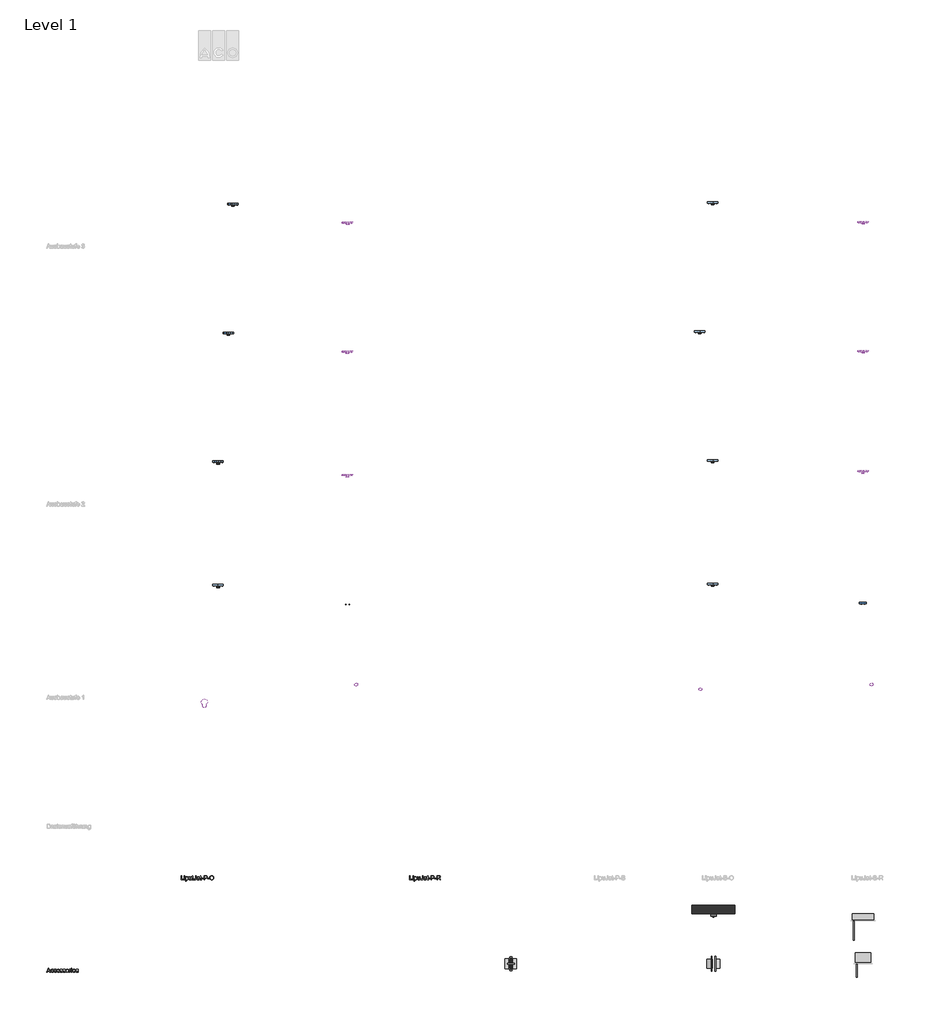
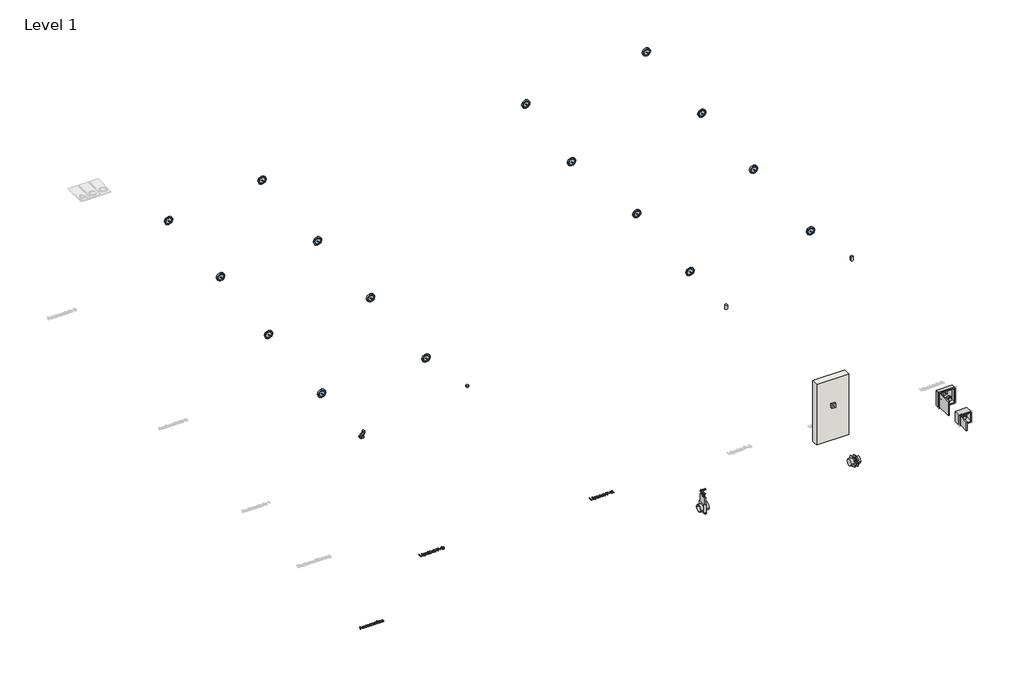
# One storey, part 1 of 3: 16 windows, 5 proxies, 4 unitary equipment elements, 2 furniture elements, 2 pipe fittings, 1 valve, 1 wall.
"""IFC4 building model written with IfcOpenShell, lengths in millimetres."""

from ifc_helpers import new_model, si_unit, origin, origin_with_axes, place, context, project, spatial, polyline, outline, extrude, transform, mapped, element, save
from components import cd_pvc_remote_control_aco_std_7b1f1c58, furniture_370x330x250_330b71c9, furniture_500x500x160_cb3627f5, std_2dac5c2e, ns2_aebbb962, ns2_601247f1, ns4_c199ca5a, ns4_fcfb2e82, dn200_f11250b8, std_43f00bc0

model = new_model("IFC4")

# Units and contexts
model_context = context("Model", 3, world=origin())
ifc_project = project(units=[si_unit("LENGTHUNIT", "METRE", prefix="MILLI")], contexts=[model_context])

# Site, building, storey
site = spatial("IfcSite", under=ifc_project)
building = spatial("IfcBuilding", under=site)
storey = spatial("IfcBuildingStorey", under=building, Name="Level 1", Elevation=0.0)

# Proxies
placement = place(None, origin())
element("IfcBuildingElementProxy", 1, Name="100mm ACO", ObjectType="100mm ACO", at=placement, inside=storey, context=model_context, shape_type="SweptSolid", body=[
    extrude(outline(polyline([(183.3333333, -350.0), (120.3703704, -350.0), (120.3703704, -250.0), (133.3333333, -250.0), (133.3333333, -338.8888889), (183.3333333, -338.8888889), (183.3333333, -350.0)])), origin_with_axes(), (0.0, 0.0, 1.0), 10.0),
    extrude(outline(polyline([(209.2592593, -262.962963), (196.2962963, -262.962963), (196.2962963, -250.0), (209.2592593, -250.0), (209.2592593, -262.962963)])), origin_with_axes(), (0.0, 0.0, 1.0), 10.0),
    extrude(outline(polyline([(209.2592593, -350.0), (196.2962963, -350.0), (196.2962963, -277.7777778), (209.2592593, -277.7777778), (209.2592593, -350.0)])), origin_with_axes(), (0.0, 0.0, 1.0), 10.0),
    extrude(outline(polyline([(240.8709491, -286.4872685), (249.3272569, -278.5662616), (260.9953704, -275.9259259), (273.3217593, -278.515625), (282.7546296, -286.2847222), (288.744213, -298.2132523), (290.7407407, -313.28125), (288.4837963, -329.1702836), (281.712963, -341.4207176), (271.6579861, -349.2440683), (259.5486111, -351.8518519), (249.1753472, -349.7251157), (241.087963, -343.3449074), (240.7407407, -377.7777778), (227.7777778, -377.7777778), (227.7777778, -277.7777778), (240.7407407, -277.7777778), (240.8709491, -286.4872685)]), holes=[polyline([(258.130787, -342.5925926), (265.9035012, -340.766059), (272.2077546, -335.2864583), (276.385272, -326.1899595), (277.7777778, -313.5127315), (276.4359086, -301.4359086), (272.4103009, -292.5202546), (266.2941262, -287.0189525), (258.6805556, -285.1851852), (250.7993345, -287.2287326), (244.458912, -293.359375), (240.2813947, -302.7452257), (238.8888889, -314.5543981), (240.2235243, -326.66739), (244.2274306, -335.4600694), (250.3725405, -340.8094618), (258.130787, -342.5925926)])]), origin_with_axes(), (0.0, 0.0, 1.0), 10.0),
    extrude(outline(polyline([(364.8148148, -350.0), (353.7037037, -350.0), (353.7037037, -339.4965278), (343.4606481, -348.7630208), (330.4976852, -351.8518519), (316.3773148, -348.3362269), (307.7256944, -338.6574074), (305.5555556, -322.65625), (305.5555556, -277.7777778), (318.5185185, -277.7777778), (318.5185185, -318.75), (319.4155093, -332.8414352), (324.1030093, -339.84375), (333.130787, -342.5925926), (345.8767361, -337.6736111), (350.3580729, -330.1215278), (351.8518519, -317.3032407), (351.8518519, -277.7777778), (364.8148148, -277.7777778), (364.8148148, -350.0)])), origin_with_axes(), (0.0, 0.0, 1.0), 10.0),
    extrude(outline(polyline([(411.1111111, -351.0127315), (402.025463, -351.8518519), (390.4369213, -348.9728009), (385.9953704, -341.6666667), (385.1851852, -329.3402778), (385.1851852, -287.037037), (375.9259259, -287.037037), (375.9259259, -277.7777778), (385.1851852, -277.7777778), (385.1851852, -259.4328704), (398.1481481, -251.8518519), (398.1481481, -277.7777778), (409.2592593, -277.7777778), (409.2592593, -287.037037), (398.1481481, -287.037037), (398.1481481, -331.9444444), (399.1898148, -340.162037), (404.4849537, -342.5925926), (409.5196759, -342.5925926), (411.1111111, -351.0127315)])), origin_with_axes(), (0.0, 0.0, 1.0), 10.0),
    extrude(outline(polyline([(472.2222222, -318.1134259), (470.348669, -333.8143808), (464.7280093, -344.1695602), (455.7653356, -349.9312789), (443.8657407, -351.8518519), (431.9661458, -349.9891493), (423.4664352, -344.4010417), (418.3666088, -335.0730613), (416.6666667, -321.9907407), (429.6296296, -320.3703704), (433.4924769, -335.6481481), (444.5601852, -340.7407407), (454.4994213, -337.5), (458.5069444, -330.0202546), (459.2592593, -319.4444444), (459.2592593, -250.0), (472.2222222, -250.0), (472.2222222, -318.1134259)])), origin_with_axes(), (0.0, 0.0, 1.0), 10.0),
    extrude(outline(polyline([(553.7037037, -316.6666667), (500.0, -316.6666667), (502.0724826, -327.7922454), (506.7853009, -335.9375), (513.566985, -340.9288194), (521.8460648, -342.5925926), (533.521412, -338.9033565), (540.7407407, -327.7777778), (553.7037037, -329.2824074), (549.3272569, -338.9033565), (542.3900463, -346.0069444), (533.1452546, -350.390625), (521.8460648, -351.8518519), (507.2591146, -349.3453414), (496.2528935, -341.8258102), (489.3410012, -329.9660012), (487.037037, -314.4386574), (489.2578125, -298.900463), (495.9201389, -286.6030093), (506.6189236, -278.5951968), (520.9490741, -275.9259259), (536.1689815, -279.3836806), (548.5966435, -291.1603009), (552.4269387, -301.6963252), (553.7037037, -316.6666667)]), holes=[polyline([(540.7407407, -307.4074074), (538.6574074, -297.2511574), (533.912037, -290.3935185), (520.630787, -285.1851852), (512.7748843, -286.7332176), (506.4525463, -291.3773148), (500.0, -307.4074074), (540.7407407, -307.4074074)])]), origin_with_axes(), (0.0, 0.0, 1.0), 10.0),
    extrude(outline(polyline([(596.2962963, -351.0127315), (587.2106481, -351.8518519), (575.6221065, -348.9728009), (571.1805556, -341.6666667), (570.3703704, -329.3402778), (570.3703704, -287.037037), (561.1111111, -287.037037), (561.1111111, -277.7777778), (570.3703704, -277.7777778), (570.3703704, -259.4328704), (583.3333333, -251.8518519), (583.3333333, -277.7777778), (594.4444444, -277.7777778), (594.4444444, -287.037037), (583.3333333, -287.037037), (583.3333333, -331.9444444), (584.375, -340.162037), (589.6701389, -342.5925926), (594.7048611, -342.5925926), (596.2962963, -351.0127315)])), origin_with_axes(), (0.0, 0.0, 1.0), 10.0),
    extrude(outline(polyline([(640.7407407, -316.6666667), (601.8518519, -316.6666667), (601.8518519, -307.4074074), (640.7407407, -307.4074074), (640.7407407, -316.6666667)])), origin_with_axes(), (0.0, 0.0, 1.0), 10.0),
    extrude(outline(polyline([(655.5555556, -250.0), (693.1134259, -250.0), (708.4201389, -250.8825231), (720.3414352, -255.46875), (728.6603009, -265.5237269), (731.4814815, -278.8194444), (729.2570891, -291.2507234), (722.583912, -300.9403935), (711.0062211, -307.1795428), (694.068287, -309.2592593), (668.5185185, -309.2592593), (668.5185185, -350.0), (655.5555556, -350.0), (655.5555556, -250.0)]), holes=[polyline([(668.5185185, -298.1481481), (694.5891204, -298.1481481), (712.536169, -293.4100116), (717.0229311, -287.4873409), (718.5185185, -279.1956019), (715.4079861, -268.2146991), (707.7690972, -262.2829861), (694.2997685, -261.1111111), (668.5185185, -261.1111111), (668.5185185, -298.1481481)])]), origin_with_axes(), (0.0, 0.0, 1.0), 10.0),
    extrude(outline(polyline([(779.6296296, -316.6666667), (740.7407407, -316.6666667), (740.7407407, -307.4074074), (779.6296296, -307.4074074), (779.6296296, -316.6666667)])), origin_with_axes(), (0.0, 0.0, 1.0), 10.0),
    extrude(outline(polyline([(837.1238426, -248.1481481), (855.6134259, -251.7216435), (870.3993056, -262.4421296), (880.0998264, -279.0147569), (883.3333333, -300.1446759), (880.0817419, -321.1841725), (870.3269676, -337.6591435), (855.5230035, -348.3036748), (837.1238426, -351.8518519), (818.2508681, -348.1734664), (803.4722222, -337.1383102), (793.9236111, -320.808015), (790.7407407, -301.244213), (793.9670139, -279.1630498), (803.6458333, -262.3408565), (818.4678819, -251.6963252), (837.1238426, -248.1481481)]), holes=[polyline([(837.0081019, -340.7407407), (850.4484954, -338.0570023), (861.0821759, -330.005787), (868.0193866, -317.1730324), (870.3703704, -300.1446759), (868.0157697, -282.7365451), (860.9519676, -269.8640046), (850.3219039, -261.9104456), (837.2685185, -259.2592593), (823.9221644, -261.8561921), (813.1655093, -269.6469907), (806.0691551, -282.8052662), (803.7037037, -301.5046296), (806.0185185, -317.3864294), (812.962963, -329.9045139), (823.6038773, -338.031684), (837.0081019, -340.7407407)])]), origin_with_axes(), (0.0, 0.0, 1.0), 10.0),
])
element("IfcBuildingElementProxy", 2, Name="100mm ACO", ObjectType="100mm ACO", at=placement, inside=storey, context=model_context, shape_type="SweptSolid", body=[
    extrude(outline(polyline([(5506.4814815, -350.0), (5443.5185185, -350.0), (5443.5185185, -250.0), (5456.4814815, -250.0), (5456.4814815, -338.8888889), (5506.4814815, -338.8888889), (5506.4814815, -350.0)])), origin_with_axes(), (0.0, 0.0, 1.0), 10.0),
    extrude(outline(polyline([(5532.4074074, -262.962963), (5519.4444444, -262.962963), (5519.4444444, -250.0), (5532.4074074, -250.0), (5532.4074074, -262.962963)])), origin_with_axes(), (0.0, 0.0, 1.0), 10.0),
    extrude(outline(polyline([(5532.4074074, -350.0), (5519.4444444, -350.0), (5519.4444444, -277.7777778), (5532.4074074, -277.7777778), (5532.4074074, -350.0)])), origin_with_axes(), (0.0, 0.0, 1.0), 10.0),
    extrude(outline(polyline([(5564.0190972, -286.4872685), (5572.4754051, -278.5662616), (5584.1435185, -275.9259259), (5596.4699074, -278.515625), (5605.9027778, -286.2847222), (5611.8923611, -298.2132523), (5613.8888889, -313.28125), (5611.6319444, -329.1702836), (5604.8611111, -341.4207176), (5594.8061343, -349.2440683), (5582.6967593, -351.8518519), (5572.3234954, -349.7251157), (5564.2361111, -343.3449074), (5563.8888889, -377.7777778), (5550.9259259, -377.7777778), (5550.9259259, -277.7777778), (5563.8888889, -277.7777778), (5564.0190972, -286.4872685)]), holes=[polyline([(5581.2789352, -342.5925926), (5589.0516493, -340.766059), (5595.3559028, -335.2864583), (5599.5334201, -326.1899595), (5600.9259259, -313.5127315), (5599.5840567, -301.4359086), (5595.5584491, -292.5202546), (5589.4422743, -287.0189525), (5581.8287037, -285.1851852), (5573.9474826, -287.2287326), (5567.6070602, -293.359375), (5563.4295428, -302.7452257), (5562.037037, -314.5543981), (5563.3716725, -326.66739), (5567.3755787, -335.4600694), (5573.5206887, -340.8094618), (5581.2789352, -342.5925926)])]), origin_with_axes(), (0.0, 0.0, 1.0), 10.0),
    extrude(outline(polyline([(5687.962963, -350.0), (5676.8518519, -350.0), (5676.8518519, -339.4965278), (5666.6087963, -348.7630208), (5653.6458333, -351.8518519), (5639.525463, -348.3362269), (5630.8738426, -338.6574074), (5628.7037037, -322.65625), (5628.7037037, -277.7777778), (5641.6666667, -277.7777778), (5641.6666667, -318.75), (5642.5636574, -332.8414352), (5647.2511574, -339.84375), (5656.2789352, -342.5925926), (5669.0248843, -337.6736111), (5673.5062211, -330.1215278), (5675.0, -317.3032407), (5675.0, -277.7777778), (5687.962963, -277.7777778), (5687.962963, -350.0)])), origin_with_axes(), (0.0, 0.0, 1.0), 10.0),
    extrude(outline(polyline([(5756.4814815, -318.1134259), (5754.6079282, -333.8143808), (5748.9872685, -344.1695602), (5740.0245949, -349.9312789), (5728.125, -351.8518519), (5716.2254051, -349.9891493), (5707.7256944, -344.4010417), (5702.6258681, -335.0730613), (5700.9259259, -321.9907407), (5713.8888889, -320.3703704), (5717.7517361, -335.6481481), (5728.8194444, -340.7407407), (5738.7586806, -337.5), (5742.7662037, -330.0202546), (5743.5185185, -319.4444444), (5743.5185185, -250.0), (5756.4814815, -250.0), (5756.4814815, -318.1134259)])), origin_with_axes(), (0.0, 0.0, 1.0), 10.0),
    extrude(outline(polyline([(5837.962963, -316.6666667), (5784.2592593, -316.6666667), (5786.3317419, -327.7922454), (5791.0445602, -335.9375), (5797.8262442, -340.9288194), (5806.1053241, -342.5925926), (5817.7806713, -338.9033565), (5825.0, -327.7777778), (5837.962963, -329.2824074), (5833.5865162, -338.9033565), (5826.6493056, -346.0069444), (5817.4045139, -350.390625), (5806.1053241, -351.8518519), (5791.5183738, -349.3453414), (5780.5121528, -341.8258102), (5773.6002604, -329.9660012), (5771.2962963, -314.4386574), (5773.5170718, -298.900463), (5780.1793981, -286.6030093), (5790.8781829, -278.5951968), (5805.2083333, -275.9259259), (5820.4282407, -279.3836806), (5832.8559028, -291.1603009), (5836.6861979, -301.6963252), (5837.962963, -316.6666667)]), holes=[polyline([(5825.0, -307.4074074), (5822.9166667, -297.2511574), (5818.1712963, -290.3935185), (5804.8900463, -285.1851852), (5797.0341435, -286.7332176), (5790.7118056, -291.3773148), (5784.2592593, -307.4074074), (5825.0, -307.4074074)])]), origin_with_axes(), (0.0, 0.0, 1.0), 10.0),
    extrude(outline(polyline([(5880.5555556, -351.0127315), (5871.4699074, -351.8518519), (5859.8813657, -348.9728009), (5855.4398148, -341.6666667), (5854.6296296, -329.3402778), (5854.6296296, -287.037037), (5845.3703704, -287.037037), (5845.3703704, -277.7777778), (5854.6296296, -277.7777778), (5854.6296296, -259.4328704), (5867.5925926, -251.8518519), (5867.5925926, -277.7777778), (5878.7037037, -277.7777778), (5878.7037037, -287.037037), (5867.5925926, -287.037037), (5867.5925926, -331.9444444), (5868.6342593, -340.162037), (5873.9293981, -342.5925926), (5878.9641204, -342.5925926), (5880.5555556, -351.0127315)])), origin_with_axes(), (0.0, 0.0, 1.0), 10.0),
    extrude(outline(polyline([(5925.0, -316.6666667), (5886.1111111, -316.6666667), (5886.1111111, -307.4074074), (5925.0, -307.4074074), (5925.0, -316.6666667)])), origin_with_axes(), (0.0, 0.0, 1.0), 10.0),
    extrude(outline(polyline([(5939.8148148, -250.0), (5977.3726852, -250.0), (5992.6793981, -250.8825231), (6004.6006944, -255.46875), (6012.9195602, -265.5237269), (6015.7407407, -278.8194444), (6013.5163484, -291.2507234), (6006.8431713, -300.9403935), (5995.2654803, -307.1795428), (5978.3275463, -309.2592593), (5952.7777778, -309.2592593), (5952.7777778, -350.0), (5939.8148148, -350.0), (5939.8148148, -250.0)]), holes=[polyline([(5952.7777778, -298.1481481), (5978.8483796, -298.1481481), (5996.7954282, -293.4100116), (6001.2821904, -287.4873409), (6002.7777778, -279.1956019), (5999.6672454, -268.2146991), (5992.0283565, -262.2829861), (5978.5590278, -261.1111111), (5952.7777778, -261.1111111), (5952.7777778, -298.1481481)])]), origin_with_axes(), (0.0, 0.0, 1.0), 10.0),
    extrude(outline(polyline([(6063.8888889, -316.6666667), (6025.0, -316.6666667), (6025.0, -307.4074074), (6063.8888889, -307.4074074), (6063.8888889, -316.6666667)])), origin_with_axes(), (0.0, 0.0, 1.0), 10.0),
    extrude(outline(polyline([(6166.2037037, -350.0), (6151.2152778, -350.0), (6132.4508102, -320.1388889), (6124.681713, -311.009838), (6116.9560185, -306.4959491), (6107.3784722, -305.5555556), (6091.6666667, -305.5555556), (6091.6666667, -350.0), (6078.7037037, -350.0), (6078.7037037, -250.0), (6122.8298611, -250.0), (6138.0063657, -251.1429398), (6148.7413194, -255.9461806), (6155.8449074, -265.1765046), (6158.3333333, -276.9097222), (6156.5176505, -286.9610822), (6151.0706019, -294.8350694), (6142.2019676, -300.3797743), (6130.1215278, -303.443287), (6139.7786458, -310.9302662), (6148.8425926, -322.5983796), (6166.2037037, -350.0)]), holes=[polyline([(6091.6666667, -294.4444444), (6120.4282407, -294.4444444), (6134.2158565, -292.96875), (6142.3321759, -287.2251157), (6145.3703704, -277.6331019), (6140.3211806, -265.9288194), (6133.6335359, -262.3155382), (6123.6689815, -261.1111111), (6091.6666667, -261.1111111), (6091.6666667, -294.4444444)])]), origin_with_axes(), (0.0, 0.0, 1.0), 10.0),
])
element("IfcBuildingElementProxy", 3, Name="100mm ACO", ObjectType="100mm ACO", at=placement, inside=storey, context=model_context, shape_type="SweptSolid", body=[
    extrude(outline(polyline([(-2915.72885, -2500.0), (-2929.5309333, -2500.0), (-2941.5101, -2470.3703704), (-2983.9580167, -2470.3703704), (-2995.4742204, -2500.0), (-3009.2473685, -2500.0), (-2970.3874148, -2400.0), (-2956.2091741, -2400.0), (-2915.72885, -2500.0)]), holes=[polyline([(-2946.0239889, -2459.2592593), (-2960.4481787, -2422.5983796), (-2963.4140352, -2410.9375), (-2968.0726, -2429.5138889), (-2979.6177389, -2459.2592593), (-2946.0239889, -2459.2592593)])]), origin_with_axes(), (0.0, 0.0, 1.0), 10.0),
    extrude(outline(polyline([(-2845.8214426, -2475.5497685), (-2849.8506671, -2487.3553241), (-2857.0193593, -2495.5150463), (-2866.3437227, -2500.2676505), (-2876.8399611, -2501.8518519), (-2891.155644, -2499.2621528), (-2901.8110259, -2491.4930556), (-2908.4299495, -2479.4487847), (-2910.6362574, -2464.0335648), (-2905.6015352, -2441.3483796), (-2893.000262, -2429.3836806), (-2877.1003778, -2425.9259259), (-2857.6414657, -2431.5827546), (-2851.1057308, -2438.566985), (-2847.6732944, -2448.2060185), (-2860.6362574, -2450.0), (-2866.5390352, -2438.9033565), (-2876.9557019, -2435.1851852), (-2885.9111417, -2437.0695891), (-2892.4070907, -2442.7228009), (-2896.3567435, -2451.7541956), (-2897.6732944, -2463.7731481), (-2896.3531266, -2476.0018808), (-2892.3926231, -2485.083912), (-2885.9436937, -2490.7154225), (-2877.1582481, -2492.5925926), (-2864.556975, -2487.962963), (-2858.7844056, -2474.0740741), (-2845.8214426, -2475.5497685)])), origin_with_axes(), (0.0, 0.0, 1.0), 10.0),
    extrude(outline(polyline([(-2777.3029241, -2475.5497685), (-2781.3321486, -2487.3553241), (-2788.5008407, -2495.5150463), (-2797.8252042, -2500.2676505), (-2808.3214426, -2501.8518519), (-2822.6371255, -2499.2621528), (-2833.2925074, -2491.4930556), (-2839.911431, -2479.4487847), (-2842.1177389, -2464.0335648), (-2837.0830167, -2441.3483796), (-2824.4817435, -2429.3836806), (-2808.5818593, -2425.9259259), (-2789.1229472, -2431.5827546), (-2782.5872123, -2438.566985), (-2779.1547759, -2448.2060185), (-2792.1177389, -2450.0), (-2798.0205167, -2438.9033565), (-2808.4371833, -2435.1851852), (-2817.3926231, -2437.0695891), (-2823.8885722, -2442.7228009), (-2827.838225, -2451.7541956), (-2829.1547759, -2463.7731481), (-2827.8346081, -2476.0018808), (-2823.8741046, -2485.083912), (-2817.4251752, -2490.7154225), (-2808.6397296, -2492.5925926), (-2796.0384565, -2487.962963), (-2790.265887, -2474.0740741), (-2777.3029241, -2475.5497685)])), origin_with_axes(), (0.0, 0.0, 1.0), 10.0),
    extrude(outline(polyline([(-2706.9325537, -2466.6666667), (-2760.6362574, -2466.6666667), (-2758.5637748, -2477.7922454), (-2753.8509565, -2485.9375), (-2747.0692725, -2490.9288194), (-2738.7901926, -2492.5925926), (-2727.1148454, -2488.9033565), (-2719.8955167, -2477.7777778), (-2706.9325537, -2479.2824074), (-2711.3090005, -2488.9033565), (-2718.2462111, -2496.0069444), (-2727.4910028, -2500.390625), (-2738.7901926, -2501.8518519), (-2753.3771428, -2499.3453414), (-2764.3833639, -2491.8258102), (-2771.2952562, -2479.9660012), (-2773.5992204, -2464.4386574), (-2771.3784449, -2448.900463), (-2764.7161185, -2436.6030093), (-2754.0173338, -2428.5951968), (-2739.6871833, -2425.9259259), (-2724.4672759, -2429.3836806), (-2712.0396139, -2441.1603009), (-2708.2093187, -2451.6963252), (-2706.9325537, -2466.6666667)]), holes=[polyline([(-2719.8955167, -2457.4074074), (-2721.97885, -2447.2511574), (-2726.7242204, -2440.3935185), (-2740.0054704, -2435.1851852), (-2747.8613731, -2436.7332176), (-2754.1837111, -2441.3773148), (-2760.6362574, -2457.4074074), (-2719.8955167, -2457.4074074)])]), origin_with_axes(), (0.0, 0.0, 1.0), 10.0),
    extrude(outline(polyline([(-2651.3769981, -2448.1481481), (-2656.1657713, -2438.4259259), (-2667.2334796, -2435.1851852), (-2678.547137, -2437.962963), (-2682.8584796, -2446.0358796), (-2680.0083639, -2453.1828704), (-2666.5679704, -2457.0601852), (-2648.8451694, -2461.2268519), (-2639.8029241, -2467.5491898), (-2636.5621833, -2478.8773148), (-2638.5731787, -2487.8074363), (-2644.6061648, -2495.2112269), (-2654.0028662, -2500.1916956), (-2666.1050074, -2501.8518519), (-2678.5796891, -2500.4557292), (-2687.994475, -2496.2673611), (-2694.3565988, -2489.2939815), (-2697.6732944, -2479.5428241), (-2684.7103315, -2477.7777778), (-2679.1113731, -2488.9033565), (-2666.1050074, -2492.5925926), (-2653.8075537, -2488.7586806), (-2649.5251463, -2479.4270833), (-2651.4493361, -2473.4519676), (-2656.2525769, -2470.0810185), (-2669.8376463, -2467.1875), (-2690.7722528, -2459.375), (-2695.8214426, -2446.7881944), (-2693.9515062, -2438.5018808), (-2688.3416972, -2431.8142361), (-2679.5707192, -2427.3980035), (-2668.2172759, -2425.9259259), (-2656.2851289, -2427.2135417), (-2647.3405398, -2431.0763889), (-2641.3835086, -2437.5072338), (-2638.4140352, -2446.4988426), (-2651.3769981, -2448.1481481)])), origin_with_axes(), (0.0, 0.0, 1.0), 10.0),
    extrude(outline(polyline([(-2582.8584796, -2448.1481481), (-2587.6472528, -2438.4259259), (-2598.7149611, -2435.1851852), (-2610.0286185, -2437.962963), (-2614.3399611, -2446.0358796), (-2611.4898454, -2453.1828704), (-2598.0494519, -2457.0601852), (-2580.3266509, -2461.2268519), (-2571.2844056, -2467.5491898), (-2568.0436648, -2478.8773148), (-2570.0546602, -2487.8074363), (-2576.0876463, -2495.2112269), (-2585.4843477, -2500.1916956), (-2597.5864889, -2501.8518519), (-2610.0611706, -2500.4557292), (-2619.4759565, -2496.2673611), (-2625.8380803, -2489.2939815), (-2629.1547759, -2479.5428241), (-2616.191813, -2477.7777778), (-2610.5928546, -2488.9033565), (-2597.5864889, -2492.5925926), (-2585.2890352, -2488.7586806), (-2581.0066278, -2479.4270833), (-2582.9308176, -2473.4519676), (-2587.7340583, -2470.0810185), (-2601.3191278, -2467.1875), (-2622.2537343, -2459.375), (-2627.3029241, -2446.7881944), (-2625.4329877, -2438.5018808), (-2619.8231787, -2431.8142361), (-2611.0522007, -2427.3980035), (-2599.6987574, -2425.9259259), (-2587.7666104, -2427.2135417), (-2578.8220213, -2431.0763889), (-2572.86499, -2437.5072338), (-2569.8955167, -2446.4988426), (-2582.8584796, -2448.1481481)])), origin_with_axes(), (0.0, 0.0, 1.0), 10.0),
    extrude(outline(polyline([(-2525.4800074, -2425.9259259), (-2512.3036475, -2428.3203125), (-2501.594012, -2435.5034722), (-2494.4868072, -2447.0992477), (-2492.1177389, -2462.7314815), (-2494.6821197, -2481.0040509), (-2502.375262, -2492.9976852), (-2513.28021, -2499.6383102), (-2525.4800074, -2501.8518519), (-2538.0704299, -2499.5768229), (-2548.8741046, -2492.7517361), (-2556.3068303, -2480.9859664), (-2558.7844056, -2463.8888889), (-2556.390019, -2447.1715856), (-2549.2068593, -2435.3298611), (-2538.4863731, -2428.2769097), (-2525.4800074, -2425.9259259)]), holes=[polyline([(-2525.4800074, -2492.5925926), (-2516.6728604, -2490.5852141), (-2510.2745676, -2484.5630787), (-2505.0807019, -2463.4259259), (-2506.5491625, -2451.1429398), (-2510.9545444, -2442.3032407), (-2517.5228315, -2436.9646991), (-2525.4800074, -2435.1851852), (-2533.59271, -2436.9900174), (-2540.1067435, -2442.4045139), (-2544.3927678, -2451.3925058), (-2545.8214426, -2463.9178241), (-2544.3674495, -2476.3997396), (-2540.0054704, -2485.3732639), (-2533.4661185, -2490.7877604), (-2525.4800074, -2492.5925926)])]), origin_with_axes(), (0.0, 0.0, 1.0), 10.0),
    extrude(outline(polyline([(-2438.4140352, -2428.7615741), (-2442.4649611, -2437.037037), (-2450.9719056, -2435.1851852), (-2456.7661764, -2436.8127894), (-2460.9545444, -2441.6956019), (-2464.3399611, -2459.9247685), (-2464.3399611, -2500.0), (-2477.3029241, -2500.0), (-2477.3029241, -2427.7777778), (-2466.191813, -2427.7777778), (-2466.191813, -2438.4837963), (-2459.2618361, -2429.0653935), (-2450.8272296, -2425.9259259), (-2438.4140352, -2428.7615741)])), origin_with_axes(), (0.0, 0.0, 1.0), 10.0),
    extrude(outline(polyline([(-2418.0436648, -2500.0), (-2431.0066278, -2500.0), (-2431.0066278, -2427.7777778), (-2418.0436648, -2427.7777778), (-2418.0436648, -2500.0)])), origin_with_axes(), (0.0, 0.0, 1.0), 10.0),
    extrude(outline(polyline([(-2418.0436648, -2412.962963), (-2431.0066278, -2412.962963), (-2431.0066278, -2400.0), (-2418.0436648, -2400.0), (-2418.0436648, -2412.962963)])), origin_with_axes(), (0.0, 0.0, 1.0), 10.0),
    extrude(outline(polyline([(-2336.5621833, -2466.6666667), (-2390.265887, -2466.6666667), (-2388.1934044, -2477.7922454), (-2383.4805861, -2485.9375), (-2376.6989021, -2490.9288194), (-2368.4198222, -2492.5925926), (-2356.744475, -2488.9033565), (-2349.5251463, -2477.7777778), (-2336.5621833, -2479.2824074), (-2340.9386301, -2488.9033565), (-2347.8758407, -2496.0069444), (-2357.1206324, -2500.390625), (-2368.4198222, -2501.8518519), (-2383.0067725, -2499.3453414), (-2394.0129935, -2491.8258102), (-2400.9248859, -2479.9660012), (-2403.22885, -2464.4386574), (-2401.0080745, -2448.900463), (-2394.3457481, -2436.6030093), (-2383.6469634, -2428.5951968), (-2369.316813, -2425.9259259), (-2354.0969056, -2429.3836806), (-2341.6692435, -2441.1603009), (-2337.8389484, -2451.6963252), (-2336.5621833, -2466.6666667)]), holes=[polyline([(-2349.5251463, -2457.4074074), (-2351.6084796, -2447.2511574), (-2356.35385, -2440.3935185), (-2369.6351, -2435.1851852), (-2377.4910028, -2436.7332176), (-2383.8133407, -2441.3773148), (-2390.265887, -2457.4074074), (-2349.5251463, -2457.4074074)])]), origin_with_axes(), (0.0, 0.0, 1.0), 10.0),
    extrude(outline(polyline([(-2281.0066278, -2448.1481481), (-2285.7954009, -2438.4259259), (-2296.8631093, -2435.1851852), (-2308.1767667, -2437.962963), (-2312.4881093, -2446.0358796), (-2309.6379935, -2453.1828704), (-2296.1976, -2457.0601852), (-2278.4747991, -2461.2268519), (-2269.4325537, -2467.5491898), (-2266.191813, -2478.8773148), (-2268.2028083, -2487.8074363), (-2274.2357944, -2495.2112269), (-2283.6324958, -2500.1916956), (-2295.734637, -2501.8518519), (-2308.2093187, -2500.4557292), (-2317.6241046, -2496.2673611), (-2323.9862285, -2489.2939815), (-2327.3029241, -2479.5428241), (-2314.3399611, -2477.7777778), (-2308.7410028, -2488.9033565), (-2295.734637, -2492.5925926), (-2283.4371833, -2488.7586806), (-2279.1547759, -2479.4270833), (-2281.0789657, -2473.4519676), (-2285.8822065, -2470.0810185), (-2299.4672759, -2467.1875), (-2320.4018824, -2459.375), (-2325.4510722, -2446.7881944), (-2323.5811359, -2438.5018808), (-2317.9713269, -2431.8142361), (-2309.2003488, -2427.3980035), (-2297.8469056, -2425.9259259), (-2285.9147586, -2427.2135417), (-2276.9701694, -2431.0763889), (-2271.0131382, -2437.5072338), (-2268.0436648, -2446.4988426), (-2281.0066278, -2448.1481481)])), origin_with_axes(), (0.0, 0.0, 1.0), 10.0),
])
cd_pvc_remote_control_aco_std_shape = cd_pvc_remote_control_aco_std_7b1f1c58(model_context)
element("IfcBuildingElementProxy", 4, Name="CD_PVC_remote control_ACO : std", ObjectType="CD_PVC_remote control_ACO : std", at=placement, inside=storey, context=model_context, shape_type="MappedRepresentation", body=[
    mapped(cd_pvc_remote_control_aco_std_shape, transform((12519.8362684, -1140.0, 1148.8949579), x_axis=(1.0, 0.0, 0.0), y_axis=(0.0, 0.0, 1.0), z_axis=(0.0, -1.0, 0.0))),
])
element("IfcBuildingElementProxy", 5, Name="ZZZ_do not use_CD_PVC_remote control_ACO : std", ObjectType="ZZZ_do not use_CD_PVC_remote control_ACO : std", at=placement, inside=storey, context=model_context, shape_type="MappedRepresentation", body=[
    mapped(cd_pvc_remote_control_aco_std_shape, transform((16000.0, -1142.0, 362.5), x_axis=(1.0, 0.0, 0.0), y_axis=(0.0, 0.0, 1.0), z_axis=(0.0, -1.0, 0.0))),
])

# Furniture
furniture_370x330x250_shape = furniture_370x330x250_330b71c9(model_context)
element("IfcFurniture", 6, ObjectType="ME_ST_UN_connection box single connection_ACO : 370x330x250", at=placement, inside=storey, context=model_context, shape_type="MappedRepresentation", body=[
    mapped(furniture_370x330x250_shape, transform((16000.0, -2300.0, 0.0), x_axis=(1.0, 0.0, 0.0), y_axis=(0.0, 1.0, 0.0), z_axis=(0.0, 0.0, 1.0))),
])
furniture_500x500x160_shape = furniture_500x500x160_cb3627f5(model_context)
element("IfcFurniture", 7, ObjectType="ME_ST_UN_connection box double connection_ACO : 500x500x160", at=placement, inside=storey, context=model_context, shape_type="MappedRepresentation", body=[
    mapped(furniture_500x500x160_shape, transform((16000.0, -1300.0, 0.0), x_axis=(1.0, 0.0, 0.0), y_axis=(0.0, 1.0, 0.0), z_axis=(0.0, 0.0, 1.0))),
])

# Pipe fittings
std_shape = std_2dac5c2e(model_context)
element("IfcPipeFitting", 8, ObjectType="ZZZ_do not use_PIF_ST_UN_flange_ACO : std", at=placement, inside=storey, context=model_context, shape_type="MappedRepresentation", body=[
    mapped(std_shape, transform((12549.8362684, -2300.0, 0.0), x_axis=(1.0, 0.0, 0.0), y_axis=(0.0, 1.0, 0.0), z_axis=(0.0, 0.0, 1.0))),
])
element("IfcPipeFitting", 9, ObjectType="ZZZ_do not use_PIF_ST_UN_flange_ACO : std", at=placement, inside=storey, context=model_context, shape_type="MappedRepresentation", body=[
    mapped(std_shape, transform((12489.8362684, -2300.0, 0.0), x_axis=(-1.0, 0.0, 0.0), y_axis=(0.0, -1.0, 0.0), z_axis=(0.0, 0.0, 1.0))),
])

# Unitary equipment
ns2_shape = ns2_aebbb962(model_context)
element("IfcUnitaryEquipment", 10, ObjectType="ME_PE_UN_LipuJet-P-OD extension stage 1_ACO : NS2", at=placement, inside=storey, context=model_context, shape_type="MappedRepresentation", body=[
    mapped(ns2_shape, transform((500.0, 3850.0, 0.0), x_axis=(1.0, 0.0, 0.0), y_axis=(0.0, 1.0, 0.0), z_axis=(0.0, 0.0, 1.0))),
])
ns2_2_shape = ns2_601247f1(model_context)
element("IfcUnitaryEquipment", 11, ObjectType="ME_ST_UN_LipuJet-S-OD extension stage 1_ACO : NS2", at=placement, inside=storey, context=model_context, shape_type="MappedRepresentation", body=[
    mapped(ns2_2_shape, transform((12519.8362684, 3850.0, 0.0), x_axis=(1.0, 0.0, 0.0), y_axis=(0.0, 1.0, 0.0), z_axis=(0.0, 0.0, 1.0))),
])
ns4_shape = ns4_c199ca5a(model_context)
element("IfcUnitaryEquipment", 12, ObjectType="ME_PE_UN_LipuJet-P-RD extension stage 1_ACO : NS4", at=placement, inside=storey, context=model_context, shape_type="MappedRepresentation", body=[
    mapped(ns4_shape, transform((4000.0, 3850.0, 0.0), x_axis=(1.0, 0.0, 0.0), y_axis=(0.0, 1.0, 0.0), z_axis=(0.0, 0.0, 1.0))),
])
ns4_2_shape = ns4_fcfb2e82(model_context)
element("IfcUnitaryEquipment", 13, ObjectType="ME_ST_UN_LipuJet-S-RD extension stage 1_ACO : NS4", at=placement, inside=storey, context=model_context, shape_type="MappedRepresentation", body=[
    mapped(ns4_2_shape, transform((16000.0, 3850.0, 0.0), x_axis=(1.0, 0.0, 0.0), y_axis=(0.0, 1.0, 0.0), z_axis=(0.0, 0.0, 1.0))),
])

# Valve
dn200_shape = dn200_f11250b8(model_context)
element("IfcValve", 14, ObjectType="PIA_PE_UN_valve gate_ACO : DN200", at=placement, inside=storey, context=model_context, shape_type="MappedRepresentation", body=[
    mapped(dn200_shape, transform((7800.0, -2300.0, 0.0), x_axis=(0.0, 1.0, 0.0), y_axis=(-1.0, 0.0, 0.0), z_axis=(0.0, 0.0, 1.0))),
])

# Wall
element("IfcWall", 15, ObjectType="Wall 1", at=placement, inside=storey, context=model_context, shape_type="SweptSolid", body=[
    extrude(outline(polyline([(13019.8362684, -1140.0), (12019.8362684, -1140.0), (12019.8362684, -940.0), (13019.8362684, -940.0), (13019.8362684, -1140.0)])), origin_with_axes(), (0.0, 0.0, 1.0), 2000.0),
])

# Windows
std_2_shape = std_43f00bc0(model_context)
element("IfcWindow", 16, ObjectType="ZZZ_do not use_ME_PE_WPB_viewing window LipuJet-P_ACO : std", at=placement, inside=storey, context=model_context, shape_type="MappedRepresentation", body=[
    mapped(std_2_shape, transform((1332.5, 15375.0, 1132.8008024), x_axis=(0.0, 0.0, 1.0), y_axis=(-1.0, 0.0, 0.0), z_axis=(0.0, -1.0, 0.0))),
])
element("IfcWindow", 17, ObjectType="ZZZ_do not use_ME_PE_WPB_viewing window LipuJet-P_ACO : std", at=placement, inside=storey, context=model_context, shape_type="MappedRepresentation", body=[
    mapped(std_2_shape, transform((1227.5, 12375.0, 1130.5), x_axis=(0.0, 0.0, 1.0), y_axis=(-1.0, 0.0, 0.0), z_axis=(0.0, -1.0, 0.0))),
])
element("IfcWindow", 18, ObjectType="ZZZ_do not use_ME_PE_WPB_viewing window LipuJet-P_ACO : std", at=placement, inside=storey, context=model_context, shape_type="MappedRepresentation", body=[
    mapped(std_2_shape, transform((4000.0, 11942.5, 1606.5), x_axis=(0.0, 0.0, 1.0), y_axis=(-1.0, 0.0, 0.0), z_axis=(0.0, -1.0, 0.0))),
])
element("IfcWindow", 19, ObjectType="ZZZ_do not use_ME_PE_WPB_viewing window LipuJet-P_ACO : std", at=placement, inside=storey, context=model_context, shape_type="MappedRepresentation", body=[
    mapped(std_2_shape, transform((4000.0, 14942.5, 1796.5), x_axis=(0.0, 0.0, 1.0), y_axis=(-1.0, 0.0, 0.0), z_axis=(0.0, -1.0, 0.0))),
])
element("IfcWindow", 20, ObjectType="ZZZ_do not use_ME_PE_WPB_viewing window LipuJet-P_ACO : std", at=placement, inside=storey, context=model_context, shape_type="MappedRepresentation", body=[
    mapped(std_2_shape, transform((4000.0, 6070.0, 1302.0), x_axis=(0.0, 0.0, 1.0), y_axis=(-1.0, 0.0, 0.0), z_axis=(0.0, -1.0, 0.0))),
])
element("IfcWindow", 21, ObjectType="ZZZ_do not use_ME_PE_WPB_viewing window LipuJet-P_ACO : std", at=placement, inside=storey, context=model_context, shape_type="MappedRepresentation", body=[
    mapped(std_2_shape, transform((987.5, 6500.0, 930.5), x_axis=(0.0, 0.0, 1.0), y_axis=(-1.0, 0.0, 0.0), z_axis=(0.0, -1.0, 0.0))),
])
element("IfcWindow", 22, ObjectType="ZZZ_do not use_ME_PE_WPB_viewing window LipuJet-P_ACO : std", at=placement, inside=storey, context=model_context, shape_type="MappedRepresentation", body=[
    mapped(std_2_shape, transform((987.5, 9375.0, 1130.5), x_axis=(0.0, 0.0, 1.0), y_axis=(-1.0, 0.0, 0.0), z_axis=(0.0, -1.0, 0.0))),
])
element("IfcWindow", 23, ObjectType="ZZZ_do not use_ME_PE_WPB_viewing window LipuJet-P_ACO : std", at=placement, inside=storey, context=model_context, shape_type="MappedRepresentation", body=[
    mapped(std_2_shape, transform((4000.0, 9070.0, 1472.0), x_axis=(0.0, 0.0, 1.0), y_axis=(-1.0, 0.0, 0.0), z_axis=(0.0, -1.0, 0.0))),
])
element("IfcWindow", 24, ObjectType="ZZZ_do not use_ME_PE_WPB_viewing window LipuJet-S_ACO : std", at=placement, inside=storey, context=model_context, shape_type="MappedRepresentation", body=[
    mapped(std_2_shape, transform((12199.5, 12407.5, 1069.5), x_axis=(0.0, 0.0, 1.0), y_axis=(-1.0, 0.0, 0.0), z_axis=(0.0, -1.0, 0.0))),
])
element("IfcWindow", 25, ObjectType="ZZZ_do not use_ME_PE_WPB_viewing window LipuJet-S_ACO : std", at=placement, inside=storey, context=model_context, shape_type="MappedRepresentation", body=[
    mapped(std_2_shape, transform((12499.5, 15407.5, 1049.5), x_axis=(0.0, 0.0, 1.0), y_axis=(-1.0, 0.0, 0.0), z_axis=(0.0, -1.0, 0.0))),
])
element("IfcWindow", 26, ObjectType="ZZZ_do not use_ME_PE_WPB_viewing window LipuJet-S_ACO : std", at=placement, inside=storey, context=model_context, shape_type="MappedRepresentation", body=[
    mapped(std_2_shape, transform((12499.5, 6532.5, 899.5), x_axis=(0.0, 0.0, 1.0), y_axis=(-1.0, 0.0, 0.0), z_axis=(0.0, -1.0, 0.0))),
])
element("IfcWindow", 27, ObjectType="ZZZ_do not use_ME_PE_WPB_viewing window LipuJet-S_ACO : std", at=placement, inside=storey, context=model_context, shape_type="MappedRepresentation", body=[
    mapped(std_2_shape, transform((12499.5, 9407.5, 1069.5), x_axis=(0.0, 0.0, 1.0), y_axis=(-1.0, 0.0, 0.0), z_axis=(0.0, -1.0, 0.0))),
])
element("IfcWindow", 28, ObjectType="ZZZ_do not use_ME_PE_WPB_viewing window LipuJet-S_ACO : std", at=placement, inside=storey, context=model_context, shape_type="MappedRepresentation", body=[
    mapped(std_2_shape, transform((16000.0, 11953.5, 1617.8), x_axis=(0.0, 0.0, 1.0), y_axis=(-1.0, 0.0, 0.0), z_axis=(0.0, -1.0, 0.0))),
])
element("IfcWindow", 29, ObjectType="ZZZ_do not use_ME_PE_WPB_viewing window LipuJet-S_ACO : std", at=placement, inside=storey, context=model_context, shape_type="MappedRepresentation", body=[
    mapped(std_2_shape, transform((16000.0, 14953.5, 1817.8), x_axis=(0.0, 0.0, 1.0), y_axis=(-1.0, 0.0, 0.0), z_axis=(0.0, -1.0, 0.0))),
])
element("IfcWindow", 30, ObjectType="ZZZ_do not use_ME_PE_WPB_viewing window LipuJet-S_ACO : std", at=placement, inside=storey, context=model_context, shape_type="MappedRepresentation", body=[
    mapped(std_2_shape, transform((16000.0, 6081.0, 1290.5), x_axis=(0.0, 0.0, 1.0), y_axis=(-1.0, 0.0, 0.0), z_axis=(0.0, -1.0, 0.0))),
])
element("IfcWindow", 31, ObjectType="ZZZ_do not use_ME_PE_WPB_viewing window LipuJet-S_ACO : std", at=placement, inside=storey, context=model_context, shape_type="MappedRepresentation", body=[
    mapped(std_2_shape, transform((16000.0, 9153.0, 1460.5), x_axis=(0.0, 0.0, 1.0), y_axis=(-1.0, 0.0, 0.0), z_axis=(0.0, -1.0, 0.0))),
])

save(model, "model.ifc")
